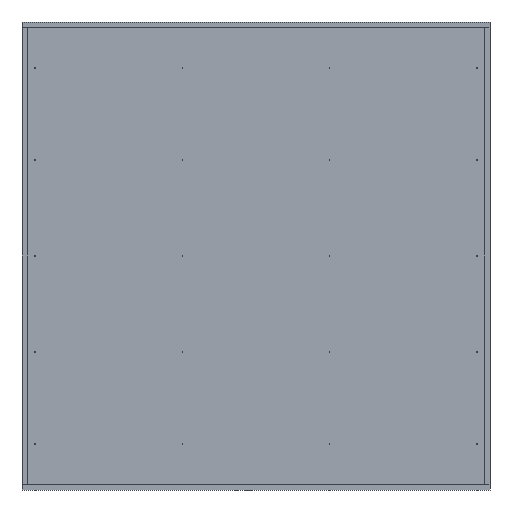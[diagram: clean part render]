
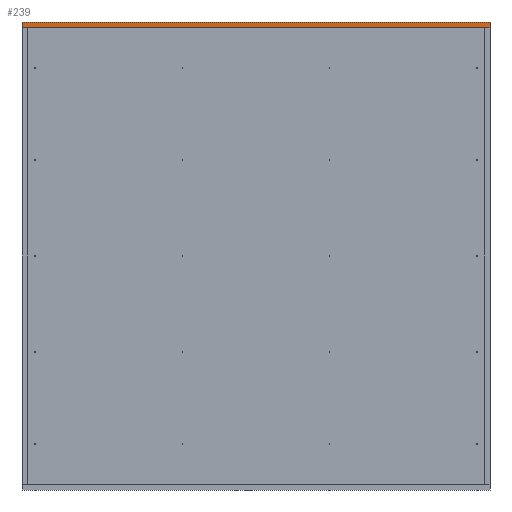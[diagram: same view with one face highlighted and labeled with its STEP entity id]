
A CAD part, left-side view. The second image highlights one B-rep face of the part: STEP entity #239.
In plain terms, the highlighted planar face has unit normal (-1, 0, 0).
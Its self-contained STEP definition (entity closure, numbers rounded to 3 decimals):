
#239 = ADVANCED_FACE('',(#240),#254,.F.);
#240 = FACE_BOUND('',#241,.F.);
#241 = EDGE_LOOP('',(#242,#277,#305,#333));
#242 = ORIENTED_EDGE('',*,*,#243,.F.);
#243 = EDGE_CURVE('',#244,#246,#248,.T.);
#244 = VERTEX_POINT('',#245);
#245 = CARTESIAN_POINT('',(0.,0.,1507.));
#246 = VERTEX_POINT('',#247);
#247 = CARTESIAN_POINT('',(0.,0.,1525.));
#248 = SURFACE_CURVE('',#249,(#253,#265),.PCURVE_S1.);
#249 = LINE('',#250,#251);
#250 = CARTESIAN_POINT('',(0.,0.,1507.));
#251 = VECTOR('',#252,1.);
#252 = DIRECTION('',(0.,0.,1.));
#253 = PCURVE('',#254,#259);
#254 = PLANE('',#255);
#255 = AXIS2_PLACEMENT_3D('',#256,#257,#258);
#256 = CARTESIAN_POINT('',(0.,0.,1507.));
#257 = DIRECTION('',(1.,0.,-0.));
#258 = DIRECTION('',(0.,0.,1.));
#259 = DEFINITIONAL_REPRESENTATION('',(#260),#264);
#260 = LINE('',#261,#262);
#261 = CARTESIAN_POINT('',(0.,0.));
#262 = VECTOR('',#263,1.);
#263 = DIRECTION('',(1.,0.));
#264 = ( GEOMETRIC_REPRESENTATION_CONTEXT(2) 
PARAMETRIC_REPRESENTATION_CONTEXT() REPRESENTATION_CONTEXT('2D SPACE',''
  ) );
#265 = PCURVE('',#266,#271);
#266 = PLANE('',#267);
#267 = AXIS2_PLACEMENT_3D('',#268,#269,#270);
#268 = CARTESIAN_POINT('',(0.,0.,1507.));
#269 = DIRECTION('',(-0.,1.,0.));
#270 = DIRECTION('',(0.,0.,1.));
#271 = DEFINITIONAL_REPRESENTATION('',(#272),#276);
#272 = LINE('',#273,#274);
#273 = CARTESIAN_POINT('',(0.,0.));
#274 = VECTOR('',#275,1.);
#275 = DIRECTION('',(1.,0.));
#276 = ( GEOMETRIC_REPRESENTATION_CONTEXT(2) 
PARAMETRIC_REPRESENTATION_CONTEXT() REPRESENTATION_CONTEXT('2D SPACE',''
  ) );
#277 = ORIENTED_EDGE('',*,*,#278,.T.);
#278 = EDGE_CURVE('',#244,#279,#281,.T.);
#279 = VERTEX_POINT('',#280);
#280 = CARTESIAN_POINT('',(0.,1525.,1507.));
#281 = SURFACE_CURVE('',#282,(#286,#293),.PCURVE_S1.);
#282 = LINE('',#283,#284);
#283 = CARTESIAN_POINT('',(0.,0.,1507.));
#284 = VECTOR('',#285,1.);
#285 = DIRECTION('',(-0.,1.,0.));
#286 = PCURVE('',#254,#287);
#287 = DEFINITIONAL_REPRESENTATION('',(#288),#292);
#288 = LINE('',#289,#290);
#289 = CARTESIAN_POINT('',(0.,0.));
#290 = VECTOR('',#291,1.);
#291 = DIRECTION('',(0.,-1.));
#292 = ( GEOMETRIC_REPRESENTATION_CONTEXT(2) 
PARAMETRIC_REPRESENTATION_CONTEXT() REPRESENTATION_CONTEXT('2D SPACE',''
  ) );
#293 = PCURVE('',#294,#299);
#294 = PLANE('',#295);
#295 = AXIS2_PLACEMENT_3D('',#296,#297,#298);
#296 = CARTESIAN_POINT('',(0.,0.,1507.));
#297 = DIRECTION('',(0.,0.,1.));
#298 = DIRECTION('',(1.,0.,-0.));
#299 = DEFINITIONAL_REPRESENTATION('',(#300),#304);
#300 = LINE('',#301,#302);
#301 = CARTESIAN_POINT('',(0.,0.));
#302 = VECTOR('',#303,1.);
#303 = DIRECTION('',(0.,1.));
#304 = ( GEOMETRIC_REPRESENTATION_CONTEXT(2) 
PARAMETRIC_REPRESENTATION_CONTEXT() REPRESENTATION_CONTEXT('2D SPACE',''
  ) );
#305 = ORIENTED_EDGE('',*,*,#306,.T.);
#306 = EDGE_CURVE('',#279,#307,#309,.T.);
#307 = VERTEX_POINT('',#308);
#308 = CARTESIAN_POINT('',(0.,1525.,1525.));
#309 = SURFACE_CURVE('',#310,(#314,#321),.PCURVE_S1.);
#310 = LINE('',#311,#312);
#311 = CARTESIAN_POINT('',(0.,1525.,1507.));
#312 = VECTOR('',#313,1.);
#313 = DIRECTION('',(0.,0.,1.));
#314 = PCURVE('',#254,#315);
#315 = DEFINITIONAL_REPRESENTATION('',(#316),#320);
#316 = LINE('',#317,#318);
#317 = CARTESIAN_POINT('',(0.,-1525.));
#318 = VECTOR('',#319,1.);
#319 = DIRECTION('',(1.,0.));
#320 = ( GEOMETRIC_REPRESENTATION_CONTEXT(2) 
PARAMETRIC_REPRESENTATION_CONTEXT() REPRESENTATION_CONTEXT('2D SPACE',''
  ) );
#321 = PCURVE('',#322,#327);
#322 = PLANE('',#323);
#323 = AXIS2_PLACEMENT_3D('',#324,#325,#326);
#324 = CARTESIAN_POINT('',(0.,1525.,1507.));
#325 = DIRECTION('',(-0.,1.,0.));
#326 = DIRECTION('',(0.,0.,1.));
#327 = DEFINITIONAL_REPRESENTATION('',(#328),#332);
#328 = LINE('',#329,#330);
#329 = CARTESIAN_POINT('',(0.,0.));
#330 = VECTOR('',#331,1.);
#331 = DIRECTION('',(1.,0.));
#332 = ( GEOMETRIC_REPRESENTATION_CONTEXT(2) 
PARAMETRIC_REPRESENTATION_CONTEXT() REPRESENTATION_CONTEXT('2D SPACE',''
  ) );
#333 = ORIENTED_EDGE('',*,*,#334,.F.);
#334 = EDGE_CURVE('',#246,#307,#335,.T.);
#335 = SURFACE_CURVE('',#336,(#340,#347),.PCURVE_S1.);
#336 = LINE('',#337,#338);
#337 = CARTESIAN_POINT('',(0.,0.,1525.));
#338 = VECTOR('',#339,1.);
#339 = DIRECTION('',(-0.,1.,0.));
#340 = PCURVE('',#254,#341);
#341 = DEFINITIONAL_REPRESENTATION('',(#342),#346);
#342 = LINE('',#343,#344);
#343 = CARTESIAN_POINT('',(18.,0.));
#344 = VECTOR('',#345,1.);
#345 = DIRECTION('',(0.,-1.));
#346 = ( GEOMETRIC_REPRESENTATION_CONTEXT(2) 
PARAMETRIC_REPRESENTATION_CONTEXT() REPRESENTATION_CONTEXT('2D SPACE',''
  ) );
#347 = PCURVE('',#348,#353);
#348 = PLANE('',#349);
#349 = AXIS2_PLACEMENT_3D('',#350,#351,#352);
#350 = CARTESIAN_POINT('',(0.,0.,1525.));
#351 = DIRECTION('',(0.,0.,1.));
#352 = DIRECTION('',(1.,0.,-0.));
#353 = DEFINITIONAL_REPRESENTATION('',(#354),#358);
#354 = LINE('',#355,#356);
#355 = CARTESIAN_POINT('',(0.,0.));
#356 = VECTOR('',#357,1.);
#357 = DIRECTION('',(0.,1.));
#358 = ( GEOMETRIC_REPRESENTATION_CONTEXT(2) 
PARAMETRIC_REPRESENTATION_CONTEXT() REPRESENTATION_CONTEXT('2D SPACE',''
  ) );
